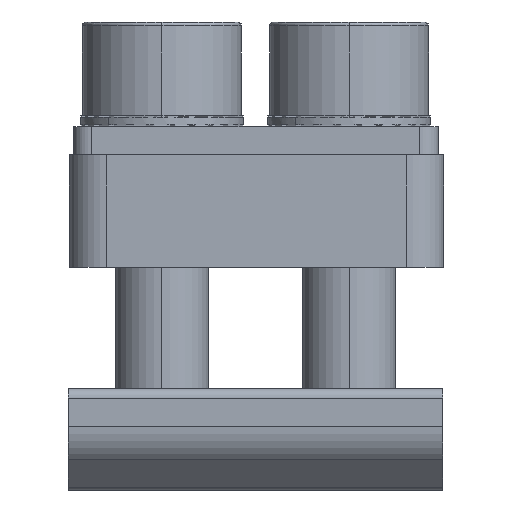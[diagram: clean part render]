
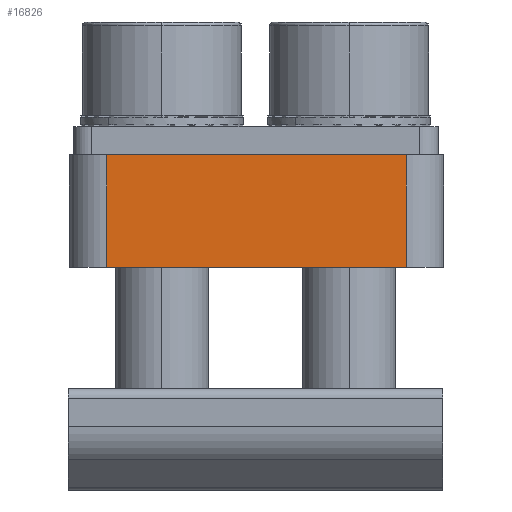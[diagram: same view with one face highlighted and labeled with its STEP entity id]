
A CAD part, front view. The second image highlights one B-rep face of the part: STEP entity #16826.
In plain terms, the highlighted planar face has unit normal (0, -1, 0).
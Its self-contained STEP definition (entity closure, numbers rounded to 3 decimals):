
#2015 = LINE ( 'NONE', #9673, #17456 ) ;
#2549 = CARTESIAN_POINT ( 'NONE',  ( -48.048, -2.357, -2.742 ) ) ;
#4034 = LINE ( 'NONE', #23242, #23972 ) ;
#5559 = ORIENTED_EDGE ( 'NONE', *, *, #23093, .T. ) ;
#6333 = DIRECTION ( 'NONE',  ( 0., 0., 1. ) ) ;
#6447 = DIRECTION ( 'NONE',  ( 0., 1., 0. ) ) ;
#7022 = ORIENTED_EDGE ( 'NONE', *, *, #11354, .F. ) ;
#7533 = ORIENTED_EDGE ( 'NONE', *, *, #13213, .F. ) ;
#9340 = FACE_OUTER_BOUND ( 'NONE', #17212, .T. ) ;
#9673 = CARTESIAN_POINT ( 'NONE',  ( -32.048, -2.357, -2.742 ) ) ;
#10304 = PLANE ( 'NONE',  #14251 ) ;
#10507 = VERTEX_POINT ( 'NONE', #17019 ) ;
#10686 = CARTESIAN_POINT ( 'NONE',  ( -40.048, -2.357, -5.742 ) ) ;
#11354 = EDGE_CURVE ( 'NONE', #24635, #12703, #4034, .T. ) ;
#12085 = ORIENTED_EDGE ( 'NONE', *, *, #17642, .T. ) ;
#12615 = DIRECTION ( 'NONE',  ( 1., 0., 0. ) ) ;
#12703 = VERTEX_POINT ( 'NONE', #15882 ) ;
#13213 = EDGE_CURVE ( 'NONE', #16942, #24635, #24684, .T. ) ;
#13607 = DIRECTION ( 'NONE',  ( 1., 0., 0. ) ) ;
#14251 = AXIS2_PLACEMENT_3D ( 'NONE', #18062, #6447, #20038 ) ;
#15534 = DIRECTION ( 'NONE',  ( 0., 0., 1. ) ) ;
#15882 = CARTESIAN_POINT ( 'NONE',  ( -32.048, -2.357, 0.258 ) ) ;
#16826 = ADVANCED_FACE ( 'NONE', ( #9340 ), #10304, .F. ) ;
#16942 = VERTEX_POINT ( 'NONE', #24231 ) ;
#17019 = CARTESIAN_POINT ( 'NONE',  ( -32.048, -2.357, -5.742 ) ) ;
#17212 = EDGE_LOOP ( 'NONE', ( #7022, #7533, #5559, #12085 ) ) ;
#17456 = VECTOR ( 'NONE', #15534, 1000. ) ;
#17642 = EDGE_CURVE ( 'NONE', #10507, #12703, #2015, .T. ) ;
#18062 = CARTESIAN_POINT ( 'NONE',  ( -48.048, -2.357, -5.742 ) ) ;
#20038 = DIRECTION ( 'NONE',  ( 0., 0., 1. ) ) ;
#22228 = VECTOR ( 'NONE', #12615, 1000. ) ;
#22823 = CARTESIAN_POINT ( 'NONE',  ( -48.048, -2.357, 0.258 ) ) ;
#22844 = LINE ( 'NONE', #10686, #22228 ) ;
#23093 = EDGE_CURVE ( 'NONE', #16942, #10507, #22844, .T. ) ;
#23242 = CARTESIAN_POINT ( 'NONE',  ( -40.048, -2.357, 0.258 ) ) ;
#23972 = VECTOR ( 'NONE', #13607, 1000. ) ;
#24075 = VECTOR ( 'NONE', #6333, 1000. ) ;
#24231 = CARTESIAN_POINT ( 'NONE',  ( -48.048, -2.357, -5.742 ) ) ;
#24635 = VERTEX_POINT ( 'NONE', #22823 ) ;
#24684 = LINE ( 'NONE', #2549, #24075 ) ;
